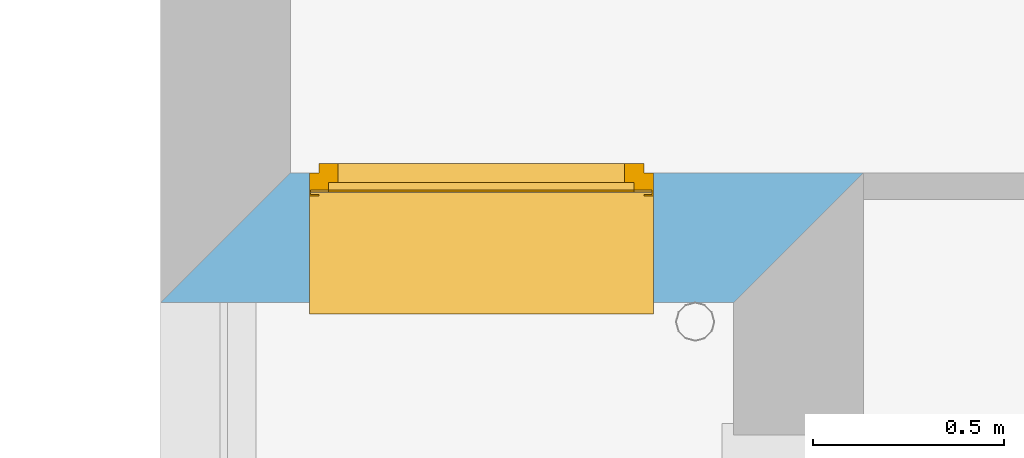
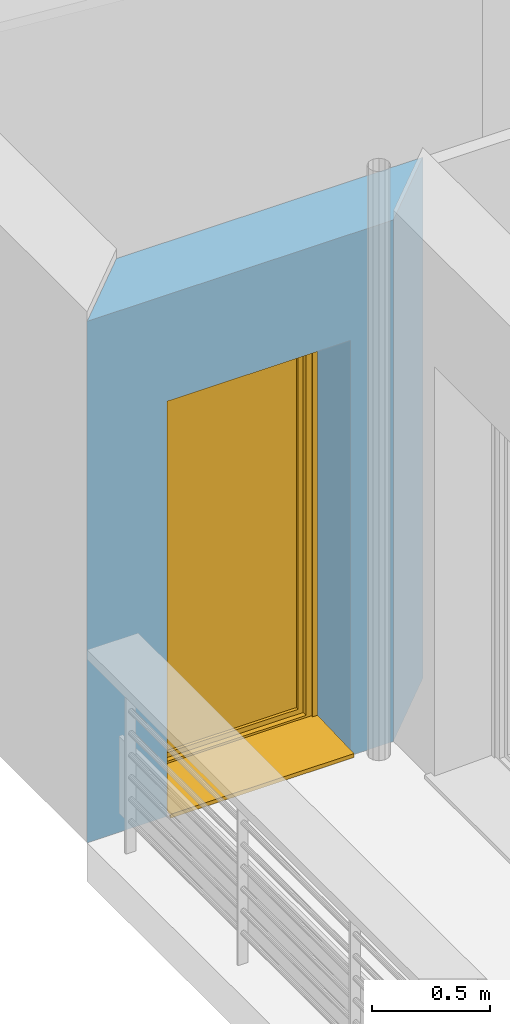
# One storey, part 90 of 164: 1 window, 1 opening, plus 1 element that does not belong to this part.
"""IFC2X3 building model written with IfcOpenShell, lengths in millimetres."""

from ifc_helpers import new_model, entity, si_unit, converted_unit, derived_unit, money_unit, direction, frame, origin_with_axes, place, context, subcontext, project, spatial, polyline, outline, extrude, open_shell, faceted_brep, surface_model, material, layer, layer_set, layer_usage, type_object, element, fill, save


model = new_model("IFC2X3")

# Units and contexts
model_context = context("Model", 3, precision=0.01, world=origin_with_axes(), true_north=direction((0.0, 1.0)))
body_context = subcontext(model_context, "Body", "Model", "MODEL_VIEW")
ifc_project = project(units=[si_unit("LENGTHUNIT", "METRE", prefix="MILLI"), si_unit("AREAUNIT", "SQUARE_METRE"), si_unit("VOLUMEUNIT", "CUBIC_METRE"), converted_unit("PLANEANGLEUNIT", "DEGREE", entity("IfcPlaneAngleMeasure", 0.0174532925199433), si_unit("PLANEANGLEUNIT", "RADIAN"), dimensions=[0, 0, 0, 0, 0, 0, 0]), money_unit("USD"), converted_unit("TIMEUNIT", "Year", entity("IfcTimeMeasure", 31557600.0), si_unit("TIMEUNIT", "SECOND"), dimensions=[0, 0, 1, 0, 0, 0, 0]), si_unit("MASSUNIT", "GRAM", prefix="KILO"), si_unit("THERMODYNAMICTEMPERATUREUNIT", "DEGREE_CELSIUS"), si_unit("LUMINOUSINTENSITYUNIT", "LUMEN"), si_unit("ENERGYUNIT", "JOULE", prefix="MEGA"), derived_unit("THERMALCONDUCTANCEUNIT", [(si_unit("POWERUNIT", "WATT"), 1), (si_unit("LENGTHUNIT", "METRE"), -1), (si_unit("THERMODYNAMICTEMPERATUREUNIT", "KELVIN"), -1)]), derived_unit("SPECIFICHEATCAPACITYUNIT", [(si_unit("ENERGYUNIT", "JOULE"), 1), (si_unit("MASSUNIT", "GRAM", prefix="KILO"), -1), (si_unit("THERMODYNAMICTEMPERATUREUNIT", "KELVIN"), -1)]), derived_unit("MASSDENSITYUNIT", [(si_unit("MASSUNIT", "GRAM", prefix="KILO"), 1), (si_unit("VOLUMEUNIT", "CUBIC_METRE"), -1)])], contexts=[model_context])

# Site, building, storey
site_placement = place(None, origin_with_axes())
site = spatial("IfcSite", under=ifc_project, at=site_placement, Name="Site", CompositionType="ELEMENT")
building_placement = place(site_placement, origin_with_axes())
building = spatial("IfcBuilding", under=site, at=building_placement, Name="Bâtiment", CompositionType="ELEMENT")
storey_placement = place(building_placement, frame((0.0, 0.0, 5750.0), z_axis=(0.0, 0.0, 1.0), x_axis=(1.0, 0.0, 0.0)))
storey = spatial("IfcBuildingStorey", under=building, at=storey_placement, Name="Etage1", CompositionType="ELEMENT", Elevation=5750.0)

# Wall, opening, window
ifc_material_1 = material(Name="Parpaing 312445824")
ifc_layer_1 = layer(ifc_material_1, 180.0, ventilated="UNKNOWN")
ifc_material_2 = material(Name="Isolant styromousse 301821074")
ifc_layer_2 = layer(ifc_material_2, 160.0, ventilated="UNKNOWN")
ifc_layer_set = layer_set([ifc_layer_1, ifc_layer_2], Name="isol int 18+16 0018356637")
ifc_layer_usage = layer_usage(ifc_layer_set, "AXIS2", "POSITIVE", 0.0)
wall_type = type_object("IfcWallType", Name="isol int 18+16 0018356637 340", PredefinedType="NOTDEFINED")
wall_placement = place(storey_placement, frame((2216634.23334483, -617507.5058083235, 0.0), z_axis=(0.0, 0.0, 1.0), x_axis=(1.0, 0.0, 0.0)))
wall = element("IfcWallStandardCase", 1, at=wall_placement, inside=storey, type_object=wall_type, material=ifc_layer_usage, Name="Mur-142", context=body_context, shape_type="SweptSolid", body=[
    extrude(outline(polyline([(0.0, 0.0), (1500.000000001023, 0.0), (1840.000000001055, 340.0000000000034), (340.0000000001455, 340.0000000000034), (0.0, 0.0)])), origin_with_axes(), (0.0, 0.0, 1.0), 2700.0),
])
opening_placement = place(wall_placement, frame((840.0000000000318, 0.0, 0.0), z_axis=(0.0, 0.0, 1.0), x_axis=(1.0, 0.0, 0.0)))
opening = element("IfcOpeningElement", 2, at=opening_placement, cuts=wall, Name="Fen-146", context=body_context, shape_type="Brep", body=[
    faceted_brep([(-450.0000000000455, 341.0000000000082, 2150.0), (449.9999999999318, 341.0000000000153, 2150.0), (450.0000000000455, 341.0000000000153, 0.0), (-450.0000000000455, 341.0000000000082, 0.0), (-450.0000000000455, 480.0000000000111, 2150.0), (449.9999999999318, 480.0000000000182, 2150.0), (449.9999999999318, 290.0000000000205, 2150.0), (450.0000000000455, 290.0000000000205, 0.0), (450.0000000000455, -0.9999999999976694, 0.0), (-450.0000000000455, -1.000000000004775, 0.0), (-450.0000000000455, 290.0000000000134, 0.0), (-450.0000000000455, 290.0000000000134, 2150.0), (-450.0000000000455, 280.0000000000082, 2150.0), (-450.0000000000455, 280.0000000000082, 2350.0), (-450.0000000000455, 480.0000000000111, 2350.0), (449.9999999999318, 480.0000000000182, 2350.0), (449.9999999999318, 280.0000000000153, 2350.0), (449.9999999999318, 280.0000000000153, 2150.0), (450.0000000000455, -0.9999999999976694, 2150.0), (-450.0000000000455, -1.000000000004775, 2150.0)], [[[0, 1, 2, 3]], [[1, 0, 4, 5]], [[1, 6, 7, 2]], [[7, 8, 9, 10, 3, 2]], [[11, 0, 3, 10]], [[0, 11, 12, 13, 14, 4]], [[15, 5, 4, 14]], [[6, 1, 5, 15, 16, 17]], [[6, 17, 18, 8, 7]], [[19, 9, 8, 18]], [[12, 11, 10, 9, 19]], [[12, 17, 16, 13]], [[16, 15, 14, 13]], [[17, 12, 19, 18]]]),
])
window_style = type_object("IfcWindowStyle", Name="Fenêtre variable 27", ConstructionType="NOTDEFINED", OperationType="SINGLE_PANEL", ParameterTakesPrecedence=False, Sizeable=False)
window_placement = place(opening_placement, frame((-450.0000000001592, 0.0, 0.0), z_axis=(0.0, 0.0, 1.0), x_axis=(1.0, 0.0, 0.0)))
window = element("IfcWindow", 3, at=window_placement, inside=storey, type_object=window_style, Name="Fen-146", OverallHeight=2150.0, OverallWidth=900.0, context=body_context, shape_type="SurfaceModel", body=[
    surface_model("IfcShellBasedSurfaceModel", [(0.0, 289.0000000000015, 49.99999999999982), (0.0, 289.0000000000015, 40.00000000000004), (900.000000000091, 289.0000000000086, 40.00000000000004), (900.000000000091, 289.0000000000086, 49.99999999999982), (0.0, -29.99999999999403, 28.96551724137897), (900.000000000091, -29.99999999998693, 28.96551724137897), (0.0, -29.99999999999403, 8.965517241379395), (900.000000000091, -29.99999999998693, 8.965517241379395), (0.0, -19.99999999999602, 18.96551724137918), (900.000000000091, -19.99999999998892, 18.96551724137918)], [open_shell([[[0, 1, 2, 3]], [[1, 4, 5, 2]], [[4, 6, 7, 5]], [[6, 8, 9, 7]]])]),
    faceted_brep([(0.0, 280.0000000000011, 2350.0), (3.000000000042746, 280.0000000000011, 2350.0), (3.000000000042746, 480.000000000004, 2350.0), (0.0, 480.000000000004, 2350.0), (0.0, 280.0000000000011, 2150.0), (3.000000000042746, 280.0000000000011, 2150.0), (3.000000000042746, 480.000000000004, 2150.0), (0.0, 480.000000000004, 2150.0)], [[[0, 1, 2, 3]], [[4, 5, 1, 0]], [[1, 5, 6, 2]], [[3, 2, 6, 7]], [[0, 3, 7, 4]], [[7, 6, 5, 4]]]),
    faceted_brep([(897.0000000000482, 280.0000000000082, 2350.0), (900.000000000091, 280.0000000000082, 2350.0), (900.000000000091, 480.0000000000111, 2350.0), (897.0000000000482, 480.0000000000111, 2350.0), (897.0000000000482, 280.0000000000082, 2150.0), (900.000000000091, 280.0000000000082, 2150.0), (900.000000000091, 480.0000000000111, 2150.0), (897.0000000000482, 480.0000000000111, 2150.0)], [[[0, 1, 2, 3]], [[4, 5, 1, 0]], [[1, 5, 6, 2]], [[3, 2, 6, 7]], [[0, 3, 7, 4]], [[7, 6, 5, 4]]]),
    faceted_brep([(3.000000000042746, 280.0000000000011, 2150.0), (897.0000000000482, 280.0000000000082, 2150.0), (897.0000000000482, 280.0000000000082, 2350.0), (3.000000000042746, 280.0000000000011, 2350.0), (3.000000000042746, 283.0000000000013, 2150.0), (897.0000000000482, 283.0000000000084, 2150.0), (897.0000000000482, 283.0000000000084, 2347.0), (897.0000000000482, 477.000000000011, 2347.0), (897.0000000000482, 477.000000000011, 2153.0), (897.0000000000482, 302.0000000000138, 2153.0), (897.0000000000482, 302.0000000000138, 2150.0), (897.0000000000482, 480.0000000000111, 2150.0), (897.0000000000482, 480.0000000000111, 2350.0), (3.000000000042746, 480.000000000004, 2350.0), (3.000000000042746, 480.000000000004, 2150.0), (3.000000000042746, 302.0000000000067, 2150.0), (3.000000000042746, 302.0000000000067, 2153.0), (3.000000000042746, 477.0000000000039, 2153.0), (3.000000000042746, 477.0000000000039, 2347.0), (3.000000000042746, 283.0000000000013, 2347.0)], [[[0, 1, 2, 3]], [[4, 5, 1, 0]], [[1, 5, 6, 7, 8, 9, 10, 11, 12, 2]], [[3, 2, 12, 13]], [[0, 3, 13, 14, 15, 16, 17, 18, 19, 4]], [[19, 6, 5, 4]], [[18, 7, 6, 19]], [[17, 8, 7, 18]], [[16, 9, 8, 17]], [[15, 10, 9, 16]], [[14, 11, 10, 15]], [[13, 12, 11, 14]]]),
    faceted_brep([(6.000000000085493, 299.2457642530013, 2235.760849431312), (6.000000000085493, 298.0000000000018, 2250.0), (6.000000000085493, 299.2457642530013, 2264.239150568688), (6.000000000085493, 302.9452050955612, 2278.045651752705), (6.000000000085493, 308.9859168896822, 2291.0), (6.000000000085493, 317.1843556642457, 2302.708583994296), (6.000000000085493, 327.291416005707, 2312.815644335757), (6.000000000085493, 339.0000000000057, 2321.014083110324), (6.000000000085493, 351.9543482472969, 2327.054794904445), (6.000000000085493, 365.760849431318, 2330.754235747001), (6.000000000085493, 380.0000000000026, 2332.000000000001), (6.000000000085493, 394.2391505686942, 2330.754235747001), (6.000000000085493, 408.0456517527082, 2327.054794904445), (6.000000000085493, 421.0000000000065, 2321.014083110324), (6.000000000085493, 432.7085839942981, 2312.815644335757), (6.000000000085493, 442.8156443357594, 2302.708583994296), (6.000000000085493, 451.01408311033, 2291.0), (6.000000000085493, 457.054794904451, 2278.045651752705), (6.000000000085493, 460.7542357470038, 2264.239150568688), (6.000000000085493, 462.0000000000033, 2250.0), (6.000000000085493, 460.7542357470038, 2235.760849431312), (6.000000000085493, 457.054794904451, 2221.954348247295), (6.000000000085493, 451.01408311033, 2209.0), (6.000000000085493, 442.8156443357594, 2197.291416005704), (6.000000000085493, 432.7085839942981, 2187.184355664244), (6.000000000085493, 421.0000000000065, 2178.985916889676), (6.000000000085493, 408.0456517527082, 2172.945205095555), (6.000000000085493, 394.2391505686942, 2169.245764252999), (6.000000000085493, 380.0000000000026, 2168.0), (6.000000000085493, 365.760849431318, 2169.245764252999), (6.000000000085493, 351.9543482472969, 2172.945205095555), (6.000000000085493, 339.0000000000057, 2178.985916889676), (6.000000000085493, 327.291416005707, 2187.184355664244), (6.000000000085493, 317.1843556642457, 2197.291416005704), (6.000000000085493, 308.9859168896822, 2209.0), (6.000000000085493, 302.9452050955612, 2221.954348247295), (894.0000000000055, 299.2457642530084, 2235.760849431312), (894.0000000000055, 298.0000000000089, 2250.0), (894.0000000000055, 299.2457642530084, 2264.239150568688), (894.0000000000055, 302.9452050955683, 2278.045651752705), (894.0000000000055, 308.9859168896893, 2291.0), (894.0000000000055, 317.1843556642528, 2302.708583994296), (894.0000000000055, 327.2914160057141, 2312.815644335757), (894.0000000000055, 339.0000000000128, 2321.014083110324), (894.0000000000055, 351.954348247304, 2327.054794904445), (894.0000000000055, 365.7608494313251, 2330.754235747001), (894.0000000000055, 380.0000000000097, 2332.000000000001), (894.0000000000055, 394.2391505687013, 2330.754235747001), (894.0000000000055, 408.0456517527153, 2327.054794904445), (894.0000000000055, 421.0000000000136, 2321.014083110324), (894.0000000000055, 432.7085839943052, 2312.815644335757), (894.0000000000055, 442.8156443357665, 2302.708583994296), (894.0000000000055, 451.0140831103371, 2291.0), (894.0000000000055, 457.0547949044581, 2278.045651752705), (894.0000000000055, 460.7542357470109, 2264.239150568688), (894.0000000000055, 462.0000000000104, 2250.0), (894.0000000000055, 460.7542357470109, 2235.760849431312), (894.0000000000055, 457.0547949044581, 2221.954348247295), (894.0000000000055, 451.0140831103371, 2209.0), (894.0000000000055, 442.8156443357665, 2197.291416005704), (894.0000000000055, 432.7085839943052, 2187.184355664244), (894.0000000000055, 421.0000000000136, 2178.985916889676), (894.0000000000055, 408.0456517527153, 2172.945205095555), (894.0000000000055, 394.2391505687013, 2169.245764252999), (894.0000000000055, 380.0000000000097, 2168.0), (894.0000000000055, 365.7608494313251, 2169.245764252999), (894.0000000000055, 351.954348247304, 2172.945205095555), (894.0000000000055, 339.0000000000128, 2178.985916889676), (894.0000000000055, 327.2914160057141, 2187.184355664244), (894.0000000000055, 317.1843556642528, 2197.291416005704), (894.0000000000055, 308.9859168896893, 2209.0), (894.0000000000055, 302.9452050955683, 2221.954348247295)], [[[0, 1, 2, 3, 4, 5, 6, 7, 8, 9, 10, 11, 12, 13, 14, 15, 16, 17, 18, 19, 20, 21, 22, 23, 24, 25, 26, 27, 28, 29, 30, 31, 32, 33, 34, 35]], [[0, 36, 37, 1]], [[1, 37, 38, 2]], [[2, 38, 39, 3]], [[3, 39, 40, 4]], [[4, 40, 41, 5]], [[5, 41, 42, 6]], [[6, 42, 43, 7]], [[7, 43, 44, 8]], [[8, 44, 45, 9]], [[9, 45, 46, 10]], [[10, 46, 47, 11]], [[11, 47, 48, 12]], [[12, 48, 49, 13]], [[13, 49, 50, 14]], [[14, 50, 51, 15]], [[15, 51, 52, 16]], [[16, 52, 53, 17]], [[17, 53, 54, 18]], [[18, 54, 55, 19]], [[19, 55, 56, 20]], [[20, 56, 57, 21]], [[21, 57, 58, 22]], [[22, 58, 59, 23]], [[23, 59, 60, 24]], [[24, 60, 61, 25]], [[25, 61, 62, 26]], [[26, 62, 63, 27]], [[27, 63, 64, 28]], [[28, 64, 65, 29]], [[29, 65, 66, 30]], [[30, 66, 67, 31]], [[31, 67, 68, 32]], [[32, 68, 69, 33]], [[33, 69, 70, 34]], [[34, 70, 71, 35]], [[35, 71, 36, 0]], [[36, 71, 70, 69, 68, 67, 66, 65, 64, 63, 62, 61, 60, 59, 58, 57, 56, 55, 54, 53, 52, 51, 50, 49, 48, 47, 46, 45, 44, 43, 42, 41, 40, 39, 38, 37]]]),
    faceted_brep([(900.000000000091, 305.0000000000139, 30.00000000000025), (900.000000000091, 305.0000000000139, 2150.0), (900.000000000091, 280.0000000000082, 2150.0), (900.000000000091, 280.0000000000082, 30.00000000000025), (875.0, 305.0000000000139, 30.00000000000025), (875.0, 305.0000000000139, 2150.0), (875.0, 302.0000000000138, 2150.0), (897.0000000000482, 302.0000000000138, 2150.0), (897.0000000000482, 283.0000000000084, 2150.0), (875.0, 283.0000000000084, 2150.0), (875.0, 280.0000000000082, 2150.0), (875.0, 280.0000000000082, 30.00000000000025), (875.0, 283.0000000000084, 30.00000000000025), (897.0000000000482, 283.0000000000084, 30.00000000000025), (897.0000000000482, 302.0000000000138, 30.00000000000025), (875.0, 302.0000000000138, 30.00000000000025)], [[[0, 1, 2, 3]], [[4, 5, 1, 0]], [[1, 5, 6, 7, 8, 9, 10, 2]], [[3, 2, 10, 11]], [[0, 3, 11, 12, 13, 14, 15, 4]], [[15, 6, 5, 4]], [[14, 7, 6, 15]], [[13, 8, 7, 14]], [[12, 9, 8, 13]], [[11, 10, 9, 12]]]),
    faceted_brep([(0.0, 305.0000000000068, 30.00000000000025), (0.0, 280.0000000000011, 30.00000000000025), (0.0, 280.0000000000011, 2150.0), (0.0, 305.0000000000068, 2150.0), (25.00000000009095, 305.0000000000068, 30.00000000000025), (25.00000000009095, 302.0000000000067, 30.00000000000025), (3.000000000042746, 302.0000000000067, 30.00000000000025), (3.000000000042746, 283.0000000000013, 30.00000000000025), (25.00000000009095, 283.0000000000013, 30.00000000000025), (25.00000000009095, 280.0000000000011, 30.00000000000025), (25.00000000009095, 280.0000000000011, 2150.0), (25.00000000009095, 283.0000000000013, 2150.0), (3.000000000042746, 283.0000000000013, 2150.0), (3.000000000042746, 302.0000000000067, 2150.0), (25.00000000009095, 302.0000000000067, 2150.0), (25.00000000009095, 305.0000000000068, 2150.0)], [[[0, 1, 2, 3]], [[0, 4, 5, 6, 7, 8, 9, 1]], [[1, 9, 10, 2]], [[3, 2, 10, 11, 12, 13, 14, 15]], [[4, 0, 3, 15]], [[5, 4, 15, 14]], [[6, 5, 14, 13]], [[7, 6, 13, 12]], [[8, 7, 12, 11]], [[9, 8, 11, 10]]]),
    surface_model("IfcShellBasedSurfaceModel", [(3.000000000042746, 295.0000000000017, 2250.0), (897.0000000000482, 295.0000000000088, 2250.0), (897.0000000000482, 290.0000000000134, 2250.0), (3.000000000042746, 290.0000000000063, 2250.0), (3.000000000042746, 295.0000000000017, 2250.0), (3.000000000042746, 290.0000000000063, 2250.0), (897.0000000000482, 290.0000000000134, 2250.0), (897.0000000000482, 295.0000000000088, 2250.0)], [open_shell([[[0, 1, 2, 3]], [[4, 5, 6, 7]]])]),
    faceted_brep([(3.000000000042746, 295.0000000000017, 2250.0), (897.0000000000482, 295.0000000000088, 2250.0), (897.0000000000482, 293.3333333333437, 2233.333333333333), (3.000000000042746, 293.3333333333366, 2233.333333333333), (3.000000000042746, 290.0000000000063, 2250.0), (897.0000000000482, 290.0000000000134, 2250.0), (897.0000000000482, 288.3333333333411, 2233.333333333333), (897.0000000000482, 288.3333333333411, 2216.666666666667), (897.0000000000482, 290.0000000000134, 2200.0), (897.0000000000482, 295.0000000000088, 2200.0), (897.0000000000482, 293.3333333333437, 2216.666666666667), (3.000000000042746, 293.3333333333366, 2216.666666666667), (3.000000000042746, 295.0000000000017, 2200.0), (3.000000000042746, 290.0000000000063, 2200.0), (3.000000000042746, 288.333333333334, 2216.666666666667), (3.000000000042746, 288.333333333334, 2233.333333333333)], [[[0, 1, 2, 3]], [[4, 5, 1, 0]], [[1, 5, 6, 7, 8, 9, 10, 2]], [[3, 2, 10, 11]], [[0, 3, 11, 12, 13, 14, 15, 4]], [[15, 6, 5, 4]], [[14, 7, 6, 15]], [[13, 8, 7, 14]], [[12, 9, 8, 13]], [[11, 10, 9, 12]]]),
    faceted_brep([(3.000000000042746, 295.0000000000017, 2200.0), (897.0000000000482, 295.0000000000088, 2200.0), (897.0000000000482, 293.3333333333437, 2183.333333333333), (3.000000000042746, 293.3333333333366, 2183.333333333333), (3.000000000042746, 290.0000000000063, 2200.0), (897.0000000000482, 290.0000000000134, 2200.0), (897.0000000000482, 288.3333333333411, 2183.333333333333), (897.0000000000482, 288.3333333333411, 2166.666666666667), (897.0000000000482, 290.0000000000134, 2150.0), (897.0000000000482, 295.0000000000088, 2150.0), (897.0000000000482, 293.3333333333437, 2166.666666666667), (3.000000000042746, 293.3333333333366, 2166.666666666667), (3.000000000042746, 295.0000000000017, 2150.0), (3.000000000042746, 290.0000000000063, 2150.0), (3.000000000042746, 288.333333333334, 2166.666666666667), (3.000000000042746, 288.333333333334, 2183.333333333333)], [[[0, 1, 2, 3]], [[4, 5, 1, 0]], [[1, 5, 6, 7, 8, 9, 10, 2]], [[3, 2, 10, 11]], [[0, 3, 11, 12, 13, 14, 15, 4]], [[15, 6, 5, 4]], [[14, 7, 6, 15]], [[13, 8, 7, 14]], [[12, 9, 8, 13]], [[11, 10, 9, 12]]]),
    faceted_brep([(25.00000000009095, 340.0000000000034, 2100.0), (0.0, 340.0000000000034, 2100.0), (0.0, 290.0000000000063, 2100.0), (50.00000000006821, 290.0000000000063, 2100.0), (50.00000000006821, 315.0000000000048, 2100.0), (25.00000000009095, 315.0000000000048, 2100.0), (25.00000000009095, 340.0000000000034, 49.99999999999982), (0.0, 340.0000000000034, 49.99999999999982), (0.0, 290.0000000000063, 49.99999999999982), (50.00000000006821, 290.0000000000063, 49.99999999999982), (50.00000000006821, 315.0000000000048, 49.99999999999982), (25.00000000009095, 315.0000000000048, 50.00000000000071)], [[[0, 1, 2, 3, 4, 5]], [[6, 7, 1, 0]], [[1, 7, 8, 2]], [[2, 8, 9, 3]], [[4, 3, 9, 10]], [[10, 11, 5, 4]], [[5, 11, 6, 0]], [[11, 10, 9, 8, 7, 6]]]),
    faceted_brep([(850.0000000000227, 315.0000000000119, 2100.0), (850.0000000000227, 290.0000000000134, 2100.0), (900.000000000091, 290.0000000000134, 2100.0), (900.000000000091, 340.0000000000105, 2100.0), (875.0, 340.0000000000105, 2100.0), (875.0, 315.0000000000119, 2100.0), (850.0000000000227, 315.0000000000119, 49.99999999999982), (850.0000000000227, 290.0000000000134, 49.99999999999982), (900.000000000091, 290.0000000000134, 49.99999999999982), (900.000000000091, 340.0000000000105, 49.99999999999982), (875.0, 340.0000000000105, 49.99999999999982), (875.0, 315.0000000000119, 49.99999999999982)], [[[0, 1, 2, 3, 4, 5]], [[6, 7, 1, 0]], [[8, 2, 1, 7]], [[9, 3, 2, 8]], [[4, 3, 9, 10]], [[10, 11, 5, 4]], [[5, 11, 6, 0]], [[11, 10, 9, 8, 7, 6]]]),
    faceted_brep([(850.0000000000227, 315.0000000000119, 49.99999999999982), (850.0000000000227, 290.0000000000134, 49.99999999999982), (900.000000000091, 290.0000000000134, 49.99999999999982), (900.000000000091, 340.0000000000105, 49.99999999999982), (875.0, 340.0000000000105, 49.99999999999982), (875.0, 315.0000000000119, 49.99999999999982), (50.00000000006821, 315.0000000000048, 49.99999999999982), (50.00000000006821, 290.0000000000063, 49.99999999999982), (0.0, 290.0000000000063, 49.99999999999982), (0.0, 290.0000000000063, 0.0), (900.000000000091, 290.0000000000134, 0.0), (900.000000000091, 340.0000000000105, 0.0), (25.00000000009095, 340.0000000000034, 25.00000000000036), (875.0, 340.0000000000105, 25.00000000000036), (0.0, 340.0000000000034, 0.0), (0.0, 340.0000000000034, 49.99999999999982), (25.00000000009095, 340.0000000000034, 49.99999999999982), (875.0, 315.0000000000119, 25.00000000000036), (25.00000000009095, 315.0000000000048, 25.00000000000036), (25.00000000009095, 315.0000000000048, 50.00000000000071)], [[[0, 1, 2, 3, 4, 5]], [[6, 7, 1, 0]], [[8, 9, 10, 2, 1, 7]], [[11, 3, 2, 10]], [[12, 13, 4, 3, 11, 14, 15, 16]], [[13, 17, 5, 4]], [[5, 17, 18, 19, 6, 0]], [[19, 16, 15, 8, 7, 6]], [[15, 14, 9, 8]], [[14, 11, 10, 9]], [[12, 18, 17, 13]], [[19, 18, 12, 16]]]),
    faceted_brep([(25.00000000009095, 340.0000000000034, 2100.0), (0.0, 340.0000000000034, 2100.0), (0.0, 340.0000000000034, 2150.0), (900.000000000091, 340.0000000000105, 2150.0), (900.000000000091, 340.0000000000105, 2100.0), (875.0, 340.0000000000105, 2100.0), (875.0, 340.0000000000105, 2125.0), (25.00000000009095, 340.0000000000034, 2125.0), (25.00000000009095, 315.0000000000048, 2100.0), (50.00000000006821, 315.0000000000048, 2100.0), (50.00000000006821, 290.0000000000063, 2100.0), (0.0, 290.0000000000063, 2100.0), (0.0, 290.0000000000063, 2150.0), (900.000000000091, 290.0000000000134, 2150.0), (900.000000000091, 290.0000000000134, 2100.0), (875.0, 315.0000000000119, 2100.0), (850.0000000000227, 290.0000000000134, 2100.0), (850.0000000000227, 315.0000000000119, 2100.0), (875.0, 315.0000000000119, 2125.0), (25.00000000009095, 315.0000000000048, 2125.0)], [[[0, 1, 2, 3, 4, 5, 6, 7]], [[8, 9, 10, 11, 1, 0]], [[2, 1, 11, 12]], [[3, 2, 12, 13]], [[4, 3, 13, 14]], [[15, 5, 4, 14, 16, 17]], [[5, 15, 18, 6]], [[6, 18, 19, 7]], [[7, 19, 8, 0]], [[17, 9, 8, 19, 18, 15]], [[17, 16, 10, 9]], [[14, 13, 12, 11, 10, 16]]]),
    faceted_brep([(75.00000000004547, 315.0000000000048, 2075.0), (75.00000000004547, 365.000000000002, 2075.0), (25.00000000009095, 365.000000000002, 2075.0), (25.00000000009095, 315.0000000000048, 2075.0), (75.00000000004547, 315.0000000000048, 75.00000000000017), (75.00000000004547, 365.000000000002, 75.00000000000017), (25.00000000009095, 365.000000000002, 75.00000000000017), (25.00000000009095, 315.0000000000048, 75.00000000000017)], [[[0, 1, 2, 3]], [[4, 5, 1, 0]], [[1, 5, 6, 2]], [[3, 2, 6, 7]], [[0, 3, 7, 4]], [[7, 6, 5, 4]]]),
    faceted_brep([(825.0000000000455, 315.0000000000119, 75.00000000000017), (825.0000000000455, 365.0000000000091, 75.00000000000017), (875.0, 365.0000000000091, 75.00000000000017), (875.0, 315.0000000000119, 75.00000000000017), (825.0000000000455, 315.0000000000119, 2075.0), (825.0000000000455, 365.0000000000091, 2075.0), (875.0, 365.0000000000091, 2075.0), (875.0, 315.0000000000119, 2075.0)], [[[0, 1, 2, 3]], [[4, 5, 1, 0]], [[1, 5, 6, 2]], [[3, 2, 6, 7]], [[0, 3, 7, 4]], [[7, 6, 5, 4]]]),
    faceted_brep([(875.0, 315.0000000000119, 25.00000000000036), (875.0, 365.0000000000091, 25.00000000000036), (875.0, 365.0000000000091, 75.00000000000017), (875.0, 315.0000000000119, 75.00000000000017), (25.00000000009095, 315.0000000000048, 25.00000000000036), (25.00000000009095, 365.000000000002, 25.00000000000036), (25.00000000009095, 365.000000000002, 75.00000000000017), (75.00000000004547, 365.000000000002, 75.00000000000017), (825.0000000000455, 365.0000000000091, 75.00000000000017), (825.0000000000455, 315.0000000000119, 75.00000000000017), (75.00000000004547, 315.0000000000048, 75.00000000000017), (25.00000000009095, 315.0000000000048, 75.00000000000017)], [[[0, 1, 2, 3]], [[4, 5, 1, 0]], [[1, 5, 6, 7, 8, 2]], [[3, 2, 8, 9]], [[0, 3, 9, 10, 11, 4]], [[11, 6, 5, 4]], [[10, 7, 6, 11]], [[9, 8, 7, 10]]]),
    faceted_brep([(25.00000000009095, 315.0000000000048, 2125.0), (25.00000000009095, 365.000000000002, 2125.0), (25.00000000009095, 365.000000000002, 2075.0), (25.00000000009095, 315.0000000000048, 2075.0), (875.0, 315.0000000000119, 2125.0), (875.0, 365.0000000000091, 2125.0), (875.0, 365.0000000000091, 2075.0), (825.0000000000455, 365.0000000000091, 2075.0), (75.00000000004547, 365.000000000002, 2075.0), (75.00000000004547, 315.0000000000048, 2075.0), (825.0000000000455, 315.0000000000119, 2075.0), (875.0, 315.0000000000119, 2075.0)], [[[0, 1, 2, 3]], [[4, 5, 1, 0]], [[1, 5, 6, 7, 8, 2]], [[3, 2, 8, 9]], [[0, 3, 9, 10, 11, 4]], [[11, 6, 5, 4]], [[10, 7, 6, 11]], [[9, 8, 7, 10]]]),
    surface_model("IfcShellBasedSurfaceModel", [(75.00000000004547, 330.0000000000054, 75.00000000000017), (825.0000000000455, 330.0000000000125, 75.00000000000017), (825.0000000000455, 330.0000000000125, 2075.0), (75.00000000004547, 330.0000000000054, 2075.0)], [open_shell([[[0, 1, 2, 3]]])]),
    surface_model("IfcShellBasedSurfaceModel", [(75.00000000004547, 350.0000000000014, 75.00000000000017), (75.00000000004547, 350.0000000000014, 2075.0), (825.0000000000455, 350.0000000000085, 2075.0), (825.0000000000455, 350.0000000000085, 75.00000000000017)], [open_shell([[[0, 1, 2, 3]]])]),
])
fill(opening, window)

save(model, "model.ifc")
